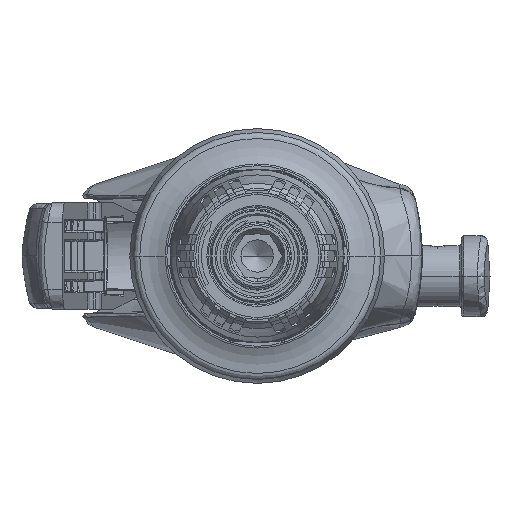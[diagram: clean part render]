
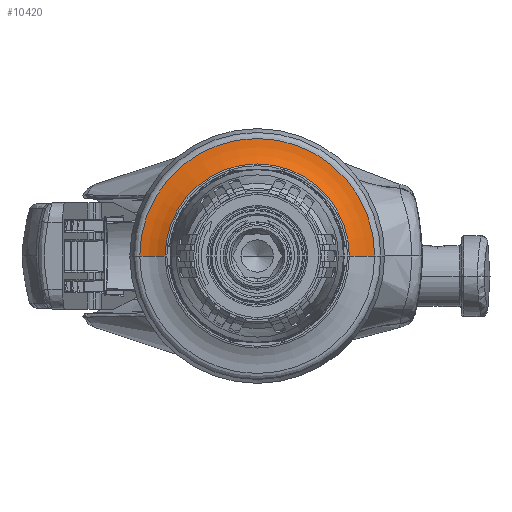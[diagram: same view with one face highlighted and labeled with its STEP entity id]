
A CAD part, left-side view. The second image highlights one B-rep face of the part: STEP entity #10420.
In plain terms, the highlighted toroidal (fillet/blend) face has major radius 17.722 mm and minor radius 8 mm.
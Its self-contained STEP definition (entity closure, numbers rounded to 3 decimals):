
#9335=CARTESIAN_POINT('',(-161.103,0.,0.));
#9336=DIRECTION('',(1.,0.,0.));
#9337=DIRECTION('',(0.,1.,0.));
#9338=AXIS2_PLACEMENT_3D('',#9335,#9336,#9337);
#9340=CARTESIAN_POINT('',(-162.229,0.,0.));
#9341=DIRECTION('',(1.,0.,0.));
#9342=DIRECTION('',(0.,1.,0.));
#9343=AXIS2_PLACEMENT_3D('',#9340,#9341,#9342);
#9390=CARTESIAN_POINT('',(-169.095,-17.722,0.));
#9391=DIRECTION('',(0.,0.,-1.));
#9392=DIRECTION('',(0.858,0.513,0.));
#9393=AXIS2_PLACEMENT_3D('',#9390,#9391,#9392);
#9395=CARTESIAN_POINT('',(-169.095,17.722,0.));
#9396=DIRECTION('',(0.,0.,-1.));
#9397=DIRECTION('',(0.999,-0.044,0.));
#9398=AXIS2_PLACEMENT_3D('',#9395,#9396,#9397);
#10126=CARTESIAN_POINT('',(-161.103,-17.369,0.));
#10127=VERTEX_POINT('',#10126);
#10128=CARTESIAN_POINT('',(-162.229,13.616,0.));
#10129=CARTESIAN_POINT('',(-162.229,-13.616,0.));
#10130=VERTEX_POINT('',#10128);
#10131=VERTEX_POINT('',#10129);
#10132=CARTESIAN_POINT('',(-161.103,17.369,0.));
#10133=VERTEX_POINT('',#10132);
#10406=CARTESIAN_POINT('',(-169.095,0.,0.));
#10407=DIRECTION('',(-1.,0.,0.));
#10408=DIRECTION('',(0.,1.,0.));
#10409=AXIS2_PLACEMENT_3D('',#10406,#10407,#10408);
#10410=TOROIDAL_SURFACE('',#10409,17.722,8.);
#10412=ORIENTED_EDGE('',*,*,#10411,.F.);
#10414=ORIENTED_EDGE('',*,*,#10413,.F.);
#10415=ORIENTED_EDGE('',*,*,#10389,.T.);
#10417=ORIENTED_EDGE('',*,*,#10416,.F.);
#10418=EDGE_LOOP('',(#10412,#10414,#10415,#10417));
#10419=FACE_OUTER_BOUND('',#10418,.F.);
#10420=ADVANCED_FACE('',(#10419),#10410,.F.);
#9339=CIRCLE('',#9338,17.369);
#9344=CIRCLE('',#9343,13.616);
#9394=CIRCLE('',#9393,8.);
#9399=CIRCLE('',#9398,8.);
#10389=EDGE_CURVE('',#10133,#10127,#9339,.T.);
#10411=EDGE_CURVE('',#10130,#10131,#9344,.T.);
#10413=EDGE_CURVE('',#10133,#10130,#9399,.T.);
#10416=EDGE_CURVE('',#10131,#10127,#9394,.T.);
